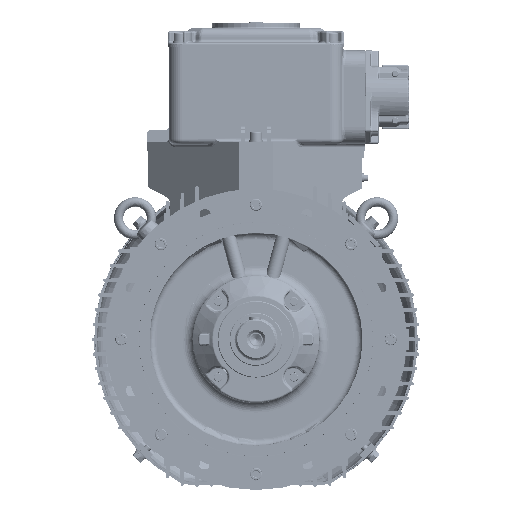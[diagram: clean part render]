
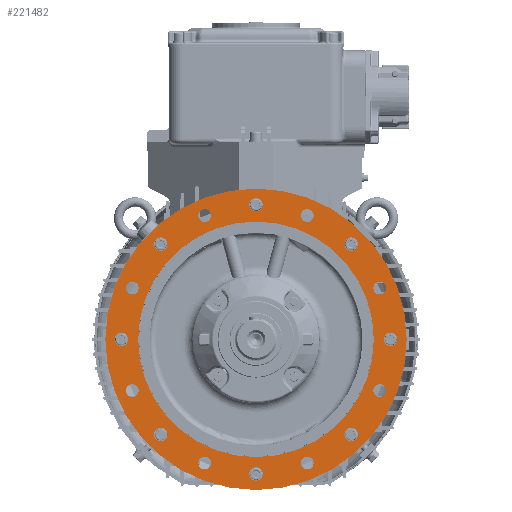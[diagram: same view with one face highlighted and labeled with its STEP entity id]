
A CAD part, left-side view. The second image highlights one B-rep face of the part: STEP entity #221482.
In plain terms, the highlighted planar face has unit normal (-1, 0, 0).
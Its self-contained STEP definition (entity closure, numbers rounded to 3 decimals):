
#40361=PLANE('',#234026);
#80438=ORIENTED_EDGE('',*,*,#106263,.F.);
#80439=ORIENTED_EDGE('',*,*,#106230,.T.);
#80440=ORIENTED_EDGE('',*,*,#106226,.T.);
#80441=ORIENTED_EDGE('',*,*,#106222,.T.);
#80442=ORIENTED_EDGE('',*,*,#106218,.T.);
#80443=ORIENTED_EDGE('',*,*,#106214,.T.);
#80444=ORIENTED_EDGE('',*,*,#106210,.T.);
#80445=ORIENTED_EDGE('',*,*,#106206,.T.);
#80446=ORIENTED_EDGE('',*,*,#106202,.T.);
#80447=ORIENTED_EDGE('',*,*,#106197,.T.);
#80448=ORIENTED_EDGE('',*,*,#106196,.F.);
#80449=ORIENTED_EDGE('',*,*,#106194,.F.);
#80450=ORIENTED_EDGE('',*,*,#106192,.F.);
#80451=ORIENTED_EDGE('',*,*,#106190,.F.);
#80452=ORIENTED_EDGE('',*,*,#106188,.F.);
#80453=ORIENTED_EDGE('',*,*,#106186,.F.);
#80454=ORIENTED_EDGE('',*,*,#106184,.F.);
#80455=ORIENTED_EDGE('',*,*,#106182,.F.);
#106182=EDGE_CURVE('',#122093,#122093,#127637,.T.);
#106184=EDGE_CURVE('',#122095,#122095,#127639,.T.);
#106186=EDGE_CURVE('',#122097,#122097,#127641,.T.);
#106188=EDGE_CURVE('',#122099,#122099,#127643,.T.);
#106190=EDGE_CURVE('',#122101,#122101,#127645,.T.);
#106192=EDGE_CURVE('',#122103,#122103,#127647,.T.);
#106194=EDGE_CURVE('',#122105,#122105,#127649,.T.);
#106196=EDGE_CURVE('',#122107,#122107,#127651,.T.);
#106197=EDGE_CURVE('',#122108,#122108,#127652,.T.);
#106202=EDGE_CURVE('',#122112,#122112,#127657,.T.);
#106206=EDGE_CURVE('',#122114,#122114,#127661,.T.);
#106210=EDGE_CURVE('',#122116,#122116,#127665,.T.);
#106214=EDGE_CURVE('',#122118,#122118,#127669,.T.);
#106218=EDGE_CURVE('',#122120,#122120,#127673,.T.);
#106222=EDGE_CURVE('',#122122,#122122,#127677,.T.);
#106226=EDGE_CURVE('',#122124,#122124,#127681,.T.);
#106230=EDGE_CURVE('',#122126,#122126,#127685,.T.);
#106263=EDGE_CURVE('',#122152,#122152,#127692,.T.);
#122093=VERTEX_POINT('',#342190);
#122095=VERTEX_POINT('',#342195);
#122097=VERTEX_POINT('',#342200);
#122099=VERTEX_POINT('',#342205);
#122101=VERTEX_POINT('',#342210);
#122103=VERTEX_POINT('',#342215);
#122105=VERTEX_POINT('',#342220);
#122107=VERTEX_POINT('',#342225);
#122108=VERTEX_POINT('',#342228);
#122112=VERTEX_POINT('',#342243);
#122114=VERTEX_POINT('',#342252);
#122116=VERTEX_POINT('',#342261);
#122118=VERTEX_POINT('',#342270);
#122120=VERTEX_POINT('',#342279);
#122122=VERTEX_POINT('',#342288);
#122124=VERTEX_POINT('',#342297);
#122126=VERTEX_POINT('',#342306);
#122152=VERTEX_POINT('',#342376);
#127637=CIRCLE('',#233926,9.5);
#127639=CIRCLE('',#233929,9.5);
#127641=CIRCLE('',#233932,9.5);
#127643=CIRCLE('',#233935,9.5);
#127645=CIRCLE('',#233938,9.5);
#127647=CIRCLE('',#233941,9.5);
#127649=CIRCLE('',#233944,9.5);
#127651=CIRCLE('',#233947,9.5);
#127652=CIRCLE('',#233949,175.919);
#127657=CIRCLE('',#233960,10.);
#127661=CIRCLE('',#233967,10.);
#127665=CIRCLE('',#233974,10.);
#127669=CIRCLE('',#233981,10.);
#127673=CIRCLE('',#233988,10.);
#127677=CIRCLE('',#233995,10.);
#127681=CIRCLE('',#234002,10.);
#127685=CIRCLE('',#234009,10.);
#127692=CIRCLE('',#234027,225.);
#138281=EDGE_LOOP('',(#80438));
#138282=EDGE_LOOP('',(#80439));
#138283=EDGE_LOOP('',(#80440));
#138284=EDGE_LOOP('',(#80441));
#138285=EDGE_LOOP('',(#80442));
#138286=EDGE_LOOP('',(#80443));
#138287=EDGE_LOOP('',(#80444));
#138288=EDGE_LOOP('',(#80445));
#138289=EDGE_LOOP('',(#80446));
#138290=EDGE_LOOP('',(#80447));
#138291=EDGE_LOOP('',(#80448));
#138292=EDGE_LOOP('',(#80449));
#138293=EDGE_LOOP('',(#80450));
#138294=EDGE_LOOP('',(#80451));
#138295=EDGE_LOOP('',(#80452));
#138296=EDGE_LOOP('',(#80453));
#138297=EDGE_LOOP('',(#80454));
#138298=EDGE_LOOP('',(#80455));
#149833=FACE_BOUND('',#138281,.T.);
#149834=FACE_BOUND('',#138282,.T.);
#149835=FACE_BOUND('',#138283,.T.);
#149836=FACE_BOUND('',#138284,.T.);
#149837=FACE_BOUND('',#138285,.T.);
#149838=FACE_BOUND('',#138286,.T.);
#149839=FACE_BOUND('',#138287,.T.);
#149840=FACE_BOUND('',#138288,.T.);
#149841=FACE_BOUND('',#138289,.T.);
#149842=FACE_BOUND('',#138290,.T.);
#149843=FACE_BOUND('',#138291,.T.);
#149844=FACE_BOUND('',#138292,.T.);
#149845=FACE_BOUND('',#138293,.T.);
#149846=FACE_BOUND('',#138294,.T.);
#149847=FACE_BOUND('',#138295,.T.);
#149848=FACE_BOUND('',#138296,.T.);
#149849=FACE_BOUND('',#138297,.T.);
#149850=FACE_BOUND('',#138298,.T.);
#221482=ADVANCED_FACE('',(#149833,#149834,#149835,#149836,#149837,#149838,
#149839,#149840,#149841,#149842,#149843,#149844,#149845,#149846,#149847,
#149848,#149849,#149850),#40361,.F.);
#233926=AXIS2_PLACEMENT_3D('',#342189,#272637,#272638);
#233929=AXIS2_PLACEMENT_3D('',#342194,#272643,#272644);
#233932=AXIS2_PLACEMENT_3D('',#342199,#272649,#272650);
#233935=AXIS2_PLACEMENT_3D('',#342204,#272655,#272656);
#233938=AXIS2_PLACEMENT_3D('',#342209,#272661,#272662);
#233941=AXIS2_PLACEMENT_3D('',#342214,#272667,#272668);
#233944=AXIS2_PLACEMENT_3D('',#342219,#272673,#272674);
#233947=AXIS2_PLACEMENT_3D('',#342224,#272679,#272680);
#233949=AXIS2_PLACEMENT_3D('',#342227,#272683,#272684);
#233960=AXIS2_PLACEMENT_3D('',#342242,#272705,#272706);
#233967=AXIS2_PLACEMENT_3D('',#342251,#272719,#272720);
#233974=AXIS2_PLACEMENT_3D('',#342260,#272733,#272734);
#233981=AXIS2_PLACEMENT_3D('',#342269,#272747,#272748);
#233988=AXIS2_PLACEMENT_3D('',#342278,#272761,#272762);
#233995=AXIS2_PLACEMENT_3D('',#342287,#272775,#272776);
#234002=AXIS2_PLACEMENT_3D('',#342296,#272789,#272790);
#234009=AXIS2_PLACEMENT_3D('',#342305,#272803,#272804);
#234026=AXIS2_PLACEMENT_3D('',#342374,#272863,#272864);
#234027=AXIS2_PLACEMENT_3D('',#342375,#272865,#272866);
#272637=DIRECTION('',(-1.,0.,0.));
#272638=DIRECTION('',(0.,-1.,0.));
#272643=DIRECTION('',(-1.,0.,0.));
#272644=DIRECTION('',(0.,-1.,0.));
#272649=DIRECTION('',(-1.,0.,0.));
#272650=DIRECTION('',(0.,-1.,0.));
#272655=DIRECTION('',(-1.,0.,0.));
#272656=DIRECTION('',(0.,-1.,0.));
#272661=DIRECTION('',(-1.,0.,0.));
#272662=DIRECTION('',(0.,-1.,0.));
#272667=DIRECTION('',(-1.,0.,0.));
#272668=DIRECTION('',(0.,-1.,0.));
#272673=DIRECTION('',(-1.,0.,0.));
#272674=DIRECTION('',(0.,-1.,0.));
#272679=DIRECTION('',(-1.,0.,0.));
#272680=DIRECTION('',(0.,-1.,0.));
#272683=DIRECTION('',(1.,0.,0.));
#272684=DIRECTION('',(0.,0.,1.));
#272705=DIRECTION('',(1.,0.,0.));
#272706=DIRECTION('',(0.,0.,-1.));
#272719=DIRECTION('',(1.,0.,0.));
#272720=DIRECTION('',(0.,0.,-1.));
#272733=DIRECTION('',(1.,0.,0.));
#272734=DIRECTION('',(0.,0.,-1.));
#272747=DIRECTION('',(1.,0.,0.));
#272748=DIRECTION('',(0.,0.,-1.));
#272761=DIRECTION('',(1.,0.,0.));
#272762=DIRECTION('',(0.,0.,-1.));
#272775=DIRECTION('',(1.,0.,0.));
#272776=DIRECTION('',(0.,0.,-1.));
#272789=DIRECTION('',(1.,0.,0.));
#272790=DIRECTION('',(0.,0.,-1.));
#272803=DIRECTION('',(1.,0.,0.));
#272804=DIRECTION('',(0.,0.,-1.));
#272863=DIRECTION('',(1.,0.,0.));
#272864=DIRECTION('',(0.,0.,1.));
#272865=DIRECTION('',(1.,0.,0.));
#272866=DIRECTION('',(0.,0.,1.));
#342189=CARTESIAN_POINT('',(-84.5,184.776,-76.537));
#342190=CARTESIAN_POINT('',(-84.5,175.276,-76.537));
#342194=CARTESIAN_POINT('',(-84.5,76.537,-184.776));
#342195=CARTESIAN_POINT('',(-84.5,67.037,-184.776));
#342199=CARTESIAN_POINT('',(-84.5,-76.537,-184.776));
#342200=CARTESIAN_POINT('',(-84.5,-86.037,-184.776));
#342204=CARTESIAN_POINT('',(-84.5,-184.776,-76.537));
#342205=CARTESIAN_POINT('',(-84.5,-194.276,-76.537));
#342209=CARTESIAN_POINT('',(-84.5,-184.776,76.537));
#342210=CARTESIAN_POINT('',(-84.5,-194.276,76.537));
#342214=CARTESIAN_POINT('',(-84.5,-76.537,184.776));
#342215=CARTESIAN_POINT('',(-84.5,-86.037,184.776));
#342219=CARTESIAN_POINT('',(-84.5,76.537,184.776));
#342220=CARTESIAN_POINT('',(-84.5,67.037,184.776));
#342224=CARTESIAN_POINT('',(-84.5,184.776,76.537));
#342225=CARTESIAN_POINT('',(-84.5,175.276,76.537));
#342227=CARTESIAN_POINT('',(-84.5,0.,0.));
#342228=CARTESIAN_POINT('',(-84.5,0.,175.919));
#342242=CARTESIAN_POINT('',(-84.5,142.128,142.128));
#342243=CARTESIAN_POINT('',(-84.5,142.128,132.128));
#342251=CARTESIAN_POINT('',(-84.5,201.,0.));
#342252=CARTESIAN_POINT('',(-84.5,201.,-10.));
#342260=CARTESIAN_POINT('',(-84.5,142.128,-142.128));
#342261=CARTESIAN_POINT('',(-84.5,142.128,-152.128));
#342269=CARTESIAN_POINT('',(-84.5,0.,-201.));
#342270=CARTESIAN_POINT('',(-84.5,0.,-211.));
#342278=CARTESIAN_POINT('',(-84.5,-142.128,-142.128));
#342279=CARTESIAN_POINT('',(-84.5,-142.128,-152.128));
#342287=CARTESIAN_POINT('',(-84.5,-201.,0.));
#342288=CARTESIAN_POINT('',(-84.5,-201.,-10.));
#342296=CARTESIAN_POINT('',(-84.5,-142.128,142.128));
#342297=CARTESIAN_POINT('',(-84.5,-142.128,132.128));
#342305=CARTESIAN_POINT('',(-84.5,0.,201.));
#342306=CARTESIAN_POINT('',(-84.5,0.,191.));
#342374=CARTESIAN_POINT('',(-84.5,0.,242.195));
#342375=CARTESIAN_POINT('',(-84.5,0.,0.));
#342376=CARTESIAN_POINT('',(-84.5,0.,225.));
